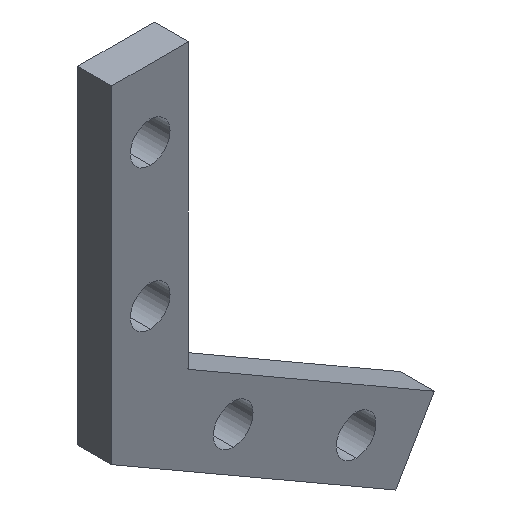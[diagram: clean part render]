
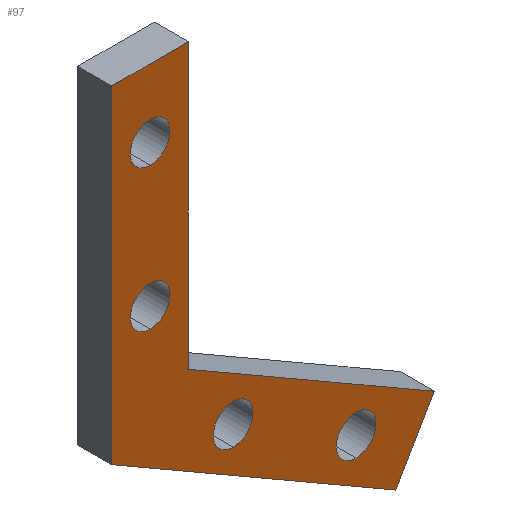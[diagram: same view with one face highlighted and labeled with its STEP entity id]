
A CAD part, isometric view. The second image highlights one B-rep face of the part: STEP entity #97.
In plain terms, the highlighted planar face has unit normal (0, -1, 0).
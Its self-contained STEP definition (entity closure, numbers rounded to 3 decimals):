
#1 = DIRECTION ( 'NONE',  ( 0., 0., -1. ) ) ;
#5 = CARTESIAN_POINT ( 'NONE',  ( 6.75, 0., 24.294 ) ) ;
#7 = VECTOR ( 'NONE', #81, 1000. ) ;
#9 = PLANE ( 'NONE',  #525 ) ;
#10 = VERTEX_POINT ( 'NONE', #16 ) ;
#13 = DIRECTION ( 'NONE',  ( 0., -1., 0. ) ) ;
#16 = CARTESIAN_POINT ( 'NONE',  ( 6.75, 0., 49.294 ) ) ;
#19 = DIRECTION ( 'NONE',  ( 0., -1., 0. ) ) ;
#21 = EDGE_CURVE ( 'NONE', #254, #86, #546, .T. ) ;
#23 = AXIS2_PLACEMENT_3D ( 'NONE', #340, #469, #214 ) ;
#24 = DIRECTION ( 'NONE',  ( 0., -1., 0. ) ) ;
#25 = EDGE_CURVE ( 'NONE', #425, #157, #69, .T. ) ;
#29 = VERTEX_POINT ( 'NONE', #483 ) ;
#37 = VECTOR ( 'NONE', #133, 1000. ) ;
#38 = LINE ( 'NONE', #206, #329 ) ;
#39 = ORIENTED_EDGE ( 'NONE', *, *, #437, .F. ) ;
#42 = CARTESIAN_POINT ( 'NONE',  ( 21.383, 0., -4.551 ) ) ;
#45 = DIRECTION ( 'NONE',  ( -0.866, 0., 0.5 ) ) ;
#49 = FACE_BOUND ( 'NONE', #342, .T. ) ;
#50 = CARTESIAN_POINT ( 'NONE',  ( 43.034, 0., -17.051 ) ) ;
#52 = VERTEX_POINT ( 'NONE', #56 ) ;
#56 = CARTESIAN_POINT ( 'NONE',  ( 6.75, 0., 42.294 ) ) ;
#65 = EDGE_CURVE ( 'NONE', #221, #266, #121, .T. ) ;
#67 = AXIS2_PLACEMENT_3D ( 'NONE', #42, #13, #182 ) ;
#69 = CIRCLE ( 'NONE', #459, 3.5 ) ;
#81 = DIRECTION ( 'NONE',  ( -0.5, 0., -0.866 ) ) ;
#86 = VERTEX_POINT ( 'NONE', #438 ) ;
#87 = AXIS2_PLACEMENT_3D ( 'NONE', #248, #331, #413 ) ;
#89 = FACE_OUTER_BOUND ( 'NONE', #220, .T. ) ;
#95 = AXIS2_PLACEMENT_3D ( 'NONE', #150, #152, #103 ) ;
#97 = ADVANCED_FACE ( 'NONE', ( #89, #265, #49, #485, #218 ), #9, .T. ) ;
#103 = DIRECTION ( 'NONE',  ( 0., 0., -1. ) ) ;
#107 = DIRECTION ( 'NONE',  ( 0., 0., 1. ) ) ;
#121 = LINE ( 'NONE', #351, #7 ) ;
#122 = VERTEX_POINT ( 'NONE', #5 ) ;
#128 = AXIS2_PLACEMENT_3D ( 'NONE', #170, #183, #434 ) ;
#129 = LINE ( 'NONE', #264, #37 ) ;
#133 = DIRECTION ( 'NONE',  ( 1., 0., 0. ) ) ;
#136 = EDGE_CURVE ( 'NONE', #249, #294, #349, .T. ) ;
#137 = DIRECTION ( 'NONE',  ( 0., -1., 0. ) ) ;
#148 = CARTESIAN_POINT ( 'NONE',  ( 6.75, 0., 17.294 ) ) ;
#150 = CARTESIAN_POINT ( 'NONE',  ( 6.75, 0., 45.794 ) ) ;
#152 = DIRECTION ( 'NONE',  ( 0., -1., 0. ) ) ;
#153 = EDGE_LOOP ( 'NONE', ( #338, #164 ) ) ;
#157 = VERTEX_POINT ( 'NONE', #352 ) ;
#163 = CIRCLE ( 'NONE', #95, 3.5 ) ;
#164 = ORIENTED_EDGE ( 'NONE', *, *, #371, .F. ) ;
#170 = CARTESIAN_POINT ( 'NONE',  ( 21.383, 0., -4.551 ) ) ;
#173 = DIRECTION ( 'NONE',  ( 0., 0., -1. ) ) ;
#174 = VECTOR ( 'NONE', #394, 1000. ) ;
#176 = AXIS2_PLACEMENT_3D ( 'NONE', #50, #19, #272 ) ;
#182 = DIRECTION ( 'NONE',  ( 0., 0., -1. ) ) ;
#183 = DIRECTION ( 'NONE',  ( 0., -1., 0. ) ) ;
#193 = CARTESIAN_POINT ( 'NONE',  ( 13.5, 0., 7.794 ) ) ;
#201 = EDGE_LOOP ( 'NONE', ( #39, #426 ) ) ;
#206 = CARTESIAN_POINT ( 'NONE',  ( 56.801, 0., -17.206 ) ) ;
#207 = ORIENTED_EDGE ( 'NONE', *, *, #136, .F. ) ;
#208 = ORIENTED_EDGE ( 'NONE', *, *, #505, .F. ) ;
#214 = DIRECTION ( 'NONE',  ( 0., 0., -1. ) ) ;
#218 = FACE_BOUND ( 'NONE', #498, .T. ) ;
#220 = EDGE_LOOP ( 'NONE', ( #507, #460, #208, #334, #481, #207 ) ) ;
#221 = VERTEX_POINT ( 'NONE', #363 ) ;
#227 = EDGE_CURVE ( 'NONE', #10, #52, #163, .T. ) ;
#228 = CARTESIAN_POINT ( 'NONE',  ( 43.034, 0., -13.551 ) ) ;
#231 = CARTESIAN_POINT ( 'NONE',  ( 0., 0., 0. ) ) ;
#236 = CARTESIAN_POINT ( 'NONE',  ( 13.5, 0., 57.794 ) ) ;
#245 = EDGE_CURVE ( 'NONE', #122, #298, #328, .T. ) ;
#248 = CARTESIAN_POINT ( 'NONE',  ( 6.75, 0., 45.794 ) ) ;
#249 = VERTEX_POINT ( 'NONE', #236 ) ;
#250 = DIRECTION ( 'NONE',  ( 0.866, 0., -0.5 ) ) ;
#254 = VERTEX_POINT ( 'NONE', #291 ) ;
#255 = VERTEX_POINT ( 'NONE', #462 ) ;
#264 = CARTESIAN_POINT ( 'NONE',  ( 13.5, 0., 57.794 ) ) ;
#265 = FACE_BOUND ( 'NONE', #153, .T. ) ;
#266 = VERTEX_POINT ( 'NONE', #407 ) ;
#267 = CARTESIAN_POINT ( 'NONE',  ( 0., 0., 57.794 ) ) ;
#268 = CARTESIAN_POINT ( 'NONE',  ( 13.5, 0., 7.794 ) ) ;
#271 = DIRECTION ( 'NONE',  ( 0., -1., 0. ) ) ;
#272 = DIRECTION ( 'NONE',  ( 0., 0., -1. ) ) ;
#277 = EDGE_CURVE ( 'NONE', #29, #255, #319, .T. ) ;
#278 = LINE ( 'NONE', #231, #452 ) ;
#291 = CARTESIAN_POINT ( 'NONE',  ( 21.383, 0., -8.051 ) ) ;
#294 = VERTEX_POINT ( 'NONE', #193 ) ;
#298 = VERTEX_POINT ( 'NONE', #148 ) ;
#319 = LINE ( 'NONE', #403, #537 ) ;
#327 = DIRECTION ( 'NONE',  ( 0., 0., -1. ) ) ;
#328 = CIRCLE ( 'NONE', #489, 3.5 ) ;
#329 = VECTOR ( 'NONE', #250, 1000. ) ;
#331 = DIRECTION ( 'NONE',  ( 0., -1., 0. ) ) ;
#332 = EDGE_CURVE ( 'NONE', #294, #221, #38, .T. ) ;
#334 = ORIENTED_EDGE ( 'NONE', *, *, #65, .F. ) ;
#338 = ORIENTED_EDGE ( 'NONE', *, *, #227, .F. ) ;
#340 = CARTESIAN_POINT ( 'NONE',  ( 6.75, 0., 20.794 ) ) ;
#342 = EDGE_LOOP ( 'NONE', ( #418, #381 ) ) ;
#349 = LINE ( 'NONE', #268, #174 ) ;
#351 = CARTESIAN_POINT ( 'NONE',  ( 50.051, 0., -28.897 ) ) ;
#352 = CARTESIAN_POINT ( 'NONE',  ( 43.034, 0., -20.551 ) ) ;
#363 = CARTESIAN_POINT ( 'NONE',  ( 56.801, 0., -17.206 ) ) ;
#371 = EDGE_CURVE ( 'NONE', #52, #10, #419, .T. ) ;
#381 = ORIENTED_EDGE ( 'NONE', *, *, #541, .F. ) ;
#392 = ORIENTED_EDGE ( 'NONE', *, *, #446, .F. ) ;
#394 = DIRECTION ( 'NONE',  ( 0., 0., -1. ) ) ;
#403 = CARTESIAN_POINT ( 'NONE',  ( 0., 0., 57.794 ) ) ;
#407 = CARTESIAN_POINT ( 'NONE',  ( 50.051, 0., -28.897 ) ) ;
#409 = CIRCLE ( 'NONE', #176, 3.5 ) ;
#413 = DIRECTION ( 'NONE',  ( 0., 0., -1. ) ) ;
#418 = ORIENTED_EDGE ( 'NONE', *, *, #245, .F. ) ;
#419 = CIRCLE ( 'NONE', #87, 3.5 ) ;
#425 = VERTEX_POINT ( 'NONE', #228 ) ;
#426 = ORIENTED_EDGE ( 'NONE', *, *, #21, .F. ) ;
#427 = CIRCLE ( 'NONE', #23, 3.5 ) ;
#434 = DIRECTION ( 'NONE',  ( 0., 0., -1. ) ) ;
#437 = EDGE_CURVE ( 'NONE', #86, #254, #467, .T. ) ;
#438 = CARTESIAN_POINT ( 'NONE',  ( 21.383, 0., -1.051 ) ) ;
#446 = EDGE_CURVE ( 'NONE', #157, #425, #409, .T. ) ;
#452 = VECTOR ( 'NONE', #45, 1000. ) ;
#459 = AXIS2_PLACEMENT_3D ( 'NONE', #512, #271, #1 ) ;
#460 = ORIENTED_EDGE ( 'NONE', *, *, #277, .F. ) ;
#462 = CARTESIAN_POINT ( 'NONE',  ( 0., 0., 57.794 ) ) ;
#467 = CIRCLE ( 'NONE', #128, 3.5 ) ;
#469 = DIRECTION ( 'NONE',  ( 0., -1., 0. ) ) ;
#481 = ORIENTED_EDGE ( 'NONE', *, *, #332, .F. ) ;
#483 = CARTESIAN_POINT ( 'NONE',  ( 0., 0., 0. ) ) ;
#485 = FACE_BOUND ( 'NONE', #201, .T. ) ;
#489 = AXIS2_PLACEMENT_3D ( 'NONE', #530, #24, #327 ) ;
#498 = EDGE_LOOP ( 'NONE', ( #549, #392 ) ) ;
#505 = EDGE_CURVE ( 'NONE', #266, #29, #278, .T. ) ;
#507 = ORIENTED_EDGE ( 'NONE', *, *, #521, .F. ) ;
#512 = CARTESIAN_POINT ( 'NONE',  ( 43.034, 0., -17.051 ) ) ;
#521 = EDGE_CURVE ( 'NONE', #255, #249, #129, .T. ) ;
#525 = AXIS2_PLACEMENT_3D ( 'NONE', #267, #137, #173 ) ;
#530 = CARTESIAN_POINT ( 'NONE',  ( 6.75, 0., 20.794 ) ) ;
#537 = VECTOR ( 'NONE', #107, 1000. ) ;
#541 = EDGE_CURVE ( 'NONE', #298, #122, #427, .T. ) ;
#546 = CIRCLE ( 'NONE', #67, 3.5 ) ;
#549 = ORIENTED_EDGE ( 'NONE', *, *, #25, .F. ) ;
